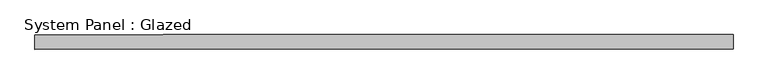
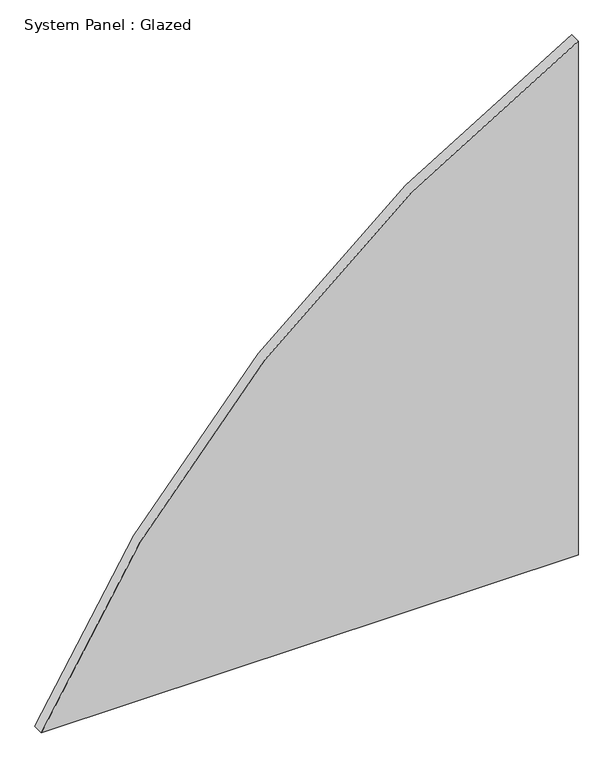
"""IFC4 building model written with IfcOpenShell, lengths in millimetres: plate geometry, System Panel : Glazed."""

from ifc_helpers import new_model, si_unit, point, frame, frame_2d, origin, place, context, project, spatial, polyline, circle_curve, trimmed, segment, composite_curve, outline, extrude, source, transform, mapped, element, save


def system_panel_glazed_bc1c2061(model_context):
    return source(origin(), model_context, "Body", "SweptSolid", [
        extrude(outline(composite_curve([segment(polyline([(0.0, -602.5241427), (0.0, 602.5241427), (1220.3295707, 602.5241427)]), True, "CONTINUOUS"), segment(trimmed(circle_curve(frame_2d((-1159.1383308, 1791.7397487)), 2660.0942185), [point((1220.3295707, 602.5241427))], [point((0.0, -602.5241427))], False, "CARTESIAN"), True, "CONTINUOUS")], self_intersect=False)), frame((0.0, 24.5, 0.0), z_axis=(0.0, 1.0, 0.0), x_axis=(0.0, 0.0, 1.0)), (0.0, 0.0, 1.0), 25.0),
    ])


if __name__ == "__main__":
    model = new_model("IFC4")
    model_context = context("Model", 3, world=origin())
    ifc_project = project(units=[si_unit("LENGTHUNIT", "METRE", prefix="MILLI")], contexts=[model_context])
    site = spatial("IfcSite", under=ifc_project)
    building = spatial("IfcBuilding", under=site)
    placement = place(None, origin())
    system_panel_glazed_shape = system_panel_glazed_bc1c2061(model_context)
    element("IfcPlate", 1, ObjectType="System Panel : Glazed", at=placement, inside=building, context=model_context, shape_type="MappedRepresentation", body=[
        mapped(system_panel_glazed_shape, transform((0.0, 0.0, 0.0), x_axis=(1.0, 0.0, 0.0), y_axis=(0.0, 1.0, 0.0), z_axis=(0.0, 0.0, 1.0))),
    ])
    save(model, "model.ifc")
